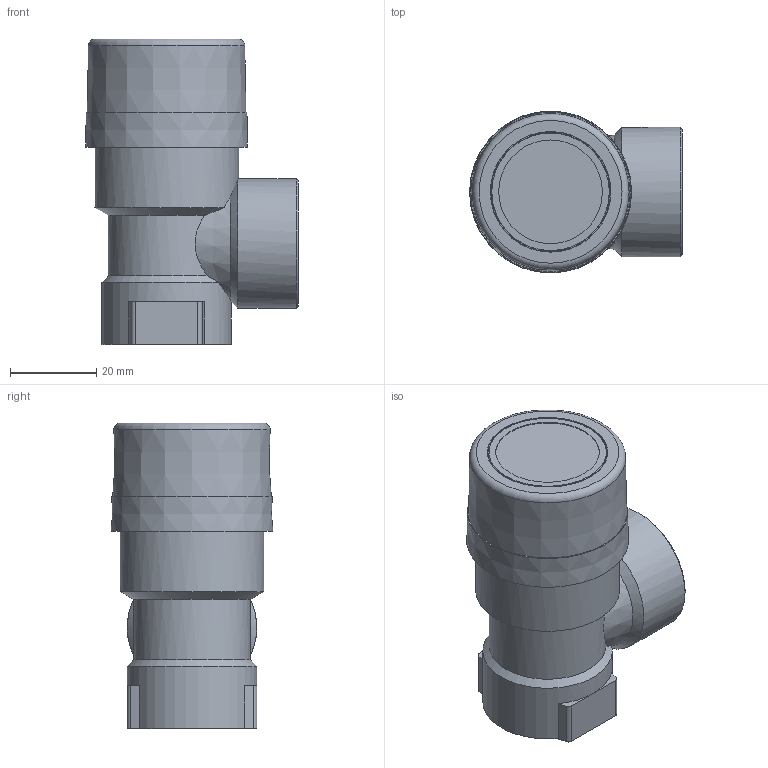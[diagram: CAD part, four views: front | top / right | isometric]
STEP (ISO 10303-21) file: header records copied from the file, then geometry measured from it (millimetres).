
FILE_DESCRIPTION(/* description */ (''),/* implementation_level */ '2;1');
FILE_NAME(/* name */ '\\DATASERVER\data\Flamco\3D-Modellen\Inventor\Prescor\Prescor 3-4_3-4\27117_prescor_3-4_3-4_10.stp',/* time_stamp */ '2026-02-16T09:23:13+01:00',/* author */ ('kasius'),/* organization */ (''),/* preprocessor_version */ 'ST-DEVELOPER v18.1',/* originating_system */ 'Autodesk Inventor 2021',/* authorisation */ '');
FILE_SCHEMA (('AUTOMOTIVE_DESIGN { 1 0 10303 214 3 1 1 }'));
Length unit declared in the file: millimetre
Products named in the file (1): 27115_prescor_3-4_3-4
Bounding box: 49.23 x 37.47 x 70.8 mm (x, y, z)
Volume: 56851 mm3; surface area: 14011.5 mm2
Topology: 1 solids, 1 shells, 55 faces, 147 edges, 104 vertices
Faces by surface type: plane 22, cone 17, cylinder 15, torus 1
Full cylindrical faces by diameter (mm): 12.919 x1, 15 x1, 24 x1, 24.12 x2, 30 x2, 33.3 x1
Entity records: 1951 total; most frequent: CARTESIAN_POINT 458, DIRECTION 311, ORIENTED_EDGE 294, EDGE_CURVE 147, AXIS2_PLACEMENT_3D 133, VERTEX_POINT 104, CIRCLE 77, EDGE_LOOP 65
